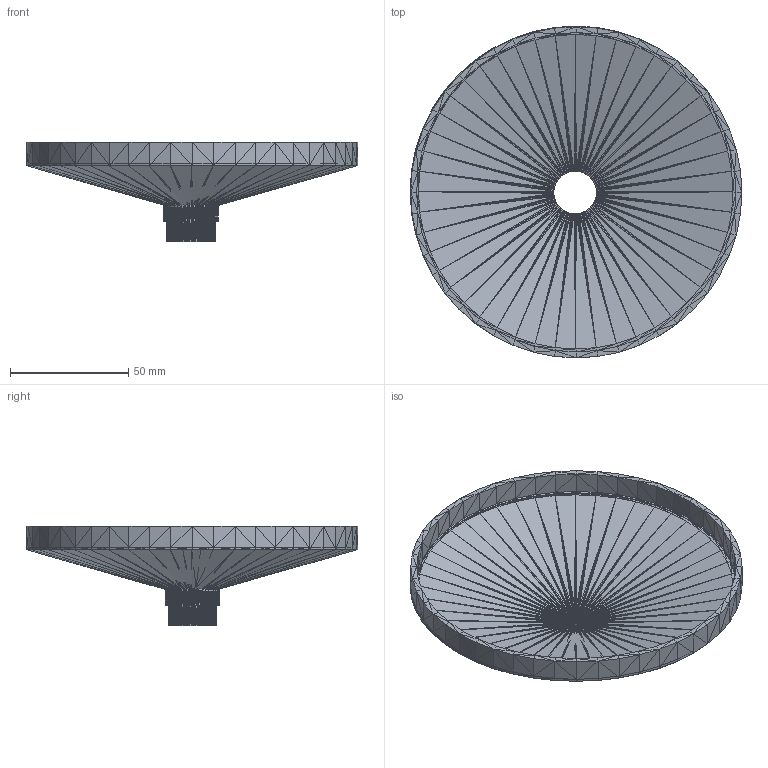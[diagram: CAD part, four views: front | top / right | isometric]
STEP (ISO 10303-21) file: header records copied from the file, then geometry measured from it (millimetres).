
FILE_DESCRIPTION((''),'2;1');
FILE_NAME('MR top Funnel', '2026-10-19T03:58:24', (''), (''), 'ImageToStl.com STEP Converter','', '');
FILE_SCHEMA(('AUTOMOTIVE_DESIGN_CC2'));
Length unit declared in the file: millimetre
Products named in the file (1): product0
Bounding box: 140.25 x 140.25 x 42.25 mm (x, y, z)
Surface area: 43798.8 mm2 (no closed solid volume)
Topology: 0 solids, 2786 shells, 2786 faces, 8358 edges, 1391 vertices
Faces by surface type: plane 2786
Entity records: 64101 total; most frequent: DIRECTION 13932, ORIENTED_EDGE 8358, EDGE_CURVE 8358, LINE 8358, VECTOR 8358, AXIS2_PLACEMENT_3D 2787, FACE_SURFACE 2786, PLANE 2786
